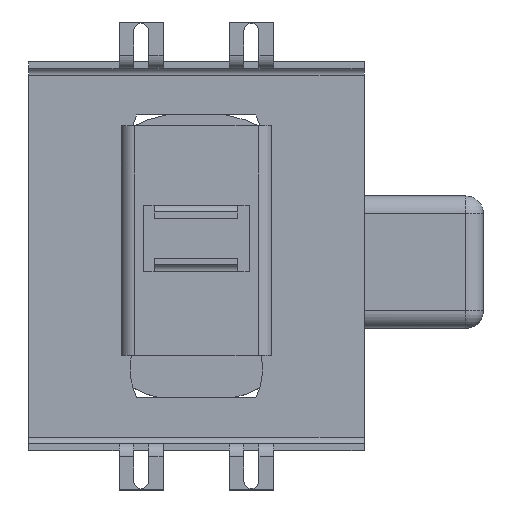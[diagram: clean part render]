
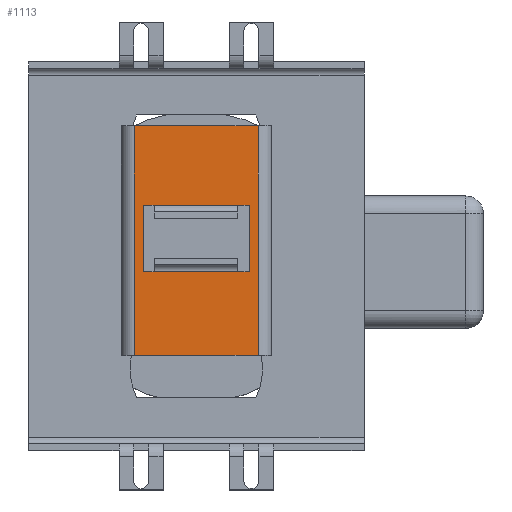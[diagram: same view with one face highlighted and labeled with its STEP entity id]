
A CAD part, top view. The second image highlights one B-rep face of the part: STEP entity #1113.
In plain terms, the highlighted planar face has unit normal (0, 0, 1).
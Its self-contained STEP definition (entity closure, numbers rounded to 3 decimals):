
#1 = LINE ( 'NONE', #502, #3295 ) ;
#94 = CARTESIAN_POINT ( 'NONE',  ( 12., -0.5, 20.5 ) ) ;
#164 = EDGE_CURVE ( 'NONE', #200, #5980, #6252, .T. ) ;
#200 = VERTEX_POINT ( 'NONE', #3700 ) ;
#207 = VERTEX_POINT ( 'NONE', #5115 ) ;
#281 = CARTESIAN_POINT ( 'NONE',  ( -9.555, 11.5, 20.5 ) ) ;
#304 = DIRECTION ( 'NONE',  ( -1., 0., 0. ) ) ;
#429 = VECTOR ( 'NONE', #4835, 1000. ) ;
#451 = ORIENTED_EDGE ( 'NONE', *, *, #1318, .T. ) ;
#474 = EDGE_CURVE ( 'NONE', #1357, #3661, #861, .T. ) ;
#502 = CARTESIAN_POINT ( 'NONE',  ( -12., 8.5, 20.5 ) ) ;
#653 = CARTESIAN_POINT ( 'NONE',  ( -14., 29.5, 20.5 ) ) ;
#698 = FACE_OUTER_BOUND ( 'NONE', #6029, .T. ) ;
#708 = DIRECTION ( 'NONE',  ( 0., 0., 1. ) ) ;
#763 = VERTEX_POINT ( 'NONE', #4251 ) ;
#839 = VERTEX_POINT ( 'NONE', #4759 ) ;
#861 = LINE ( 'NONE', #94, #1010 ) ;
#877 = DIRECTION ( 'NONE',  ( -1., 0., 0. ) ) ;
#948 = ORIENTED_EDGE ( 'NONE', *, *, #474, .F. ) ;
#1010 = VECTOR ( 'NONE', #2083, 1000. ) ;
#1090 = VECTOR ( 'NONE', #2270, 1000. ) ;
#1113 = ADVANCED_FACE ( 'NONE', ( #6237, #698 ), #1634, .T. ) ;
#1134 = VERTEX_POINT ( 'NONE', #4140 ) ;
#1161 = CARTESIAN_POINT ( 'NONE',  ( -9.555, -3.5, 20.5 ) ) ;
#1318 = EDGE_CURVE ( 'NONE', #763, #839, #1620, .T. ) ;
#1357 = VERTEX_POINT ( 'NONE', #4818 ) ;
#1366 = CARTESIAN_POINT ( 'NONE',  ( 14., 29.5, 20.5 ) ) ;
#1379 = CARTESIAN_POINT ( 'NONE',  ( -12., 11.5, 20.5 ) ) ;
#1384 = CARTESIAN_POINT ( 'NONE',  ( 12., 11.5, 20.5 ) ) ;
#1395 = VECTOR ( 'NONE', #4288, 1000. ) ;
#1529 = ORIENTED_EDGE ( 'NONE', *, *, #3925, .T. ) ;
#1620 = LINE ( 'NONE', #5765, #2181 ) ;
#1634 = PLANE ( 'NONE',  #4079 ) ;
#1674 = VECTOR ( 'NONE', #3708, 1000. ) ;
#1774 = CARTESIAN_POINT ( 'NONE',  ( 9.334, 11.5, 20.5 ) ) ;
#1874 = VERTEX_POINT ( 'NONE', #1774 ) ;
#1882 = EDGE_CURVE ( 'NONE', #207, #5896, #3860, .T. ) ;
#2079 = ORIENTED_EDGE ( 'NONE', *, *, #164, .T. ) ;
#2083 = DIRECTION ( 'NONE',  ( 0., 1., 0. ) ) ;
#2180 = EDGE_CURVE ( 'NONE', #5159, #839, #4612, .T. ) ;
#2181 = VECTOR ( 'NONE', #877, 1000. ) ;
#2270 = DIRECTION ( 'NONE',  ( 0., -1., 0. ) ) ;
#2282 = VECTOR ( 'NONE', #4594, 1000. ) ;
#2290 = VECTOR ( 'NONE', #4792, 1000. ) ;
#2294 = EDGE_CURVE ( 'NONE', #1134, #5159, #1, .T. ) ;
#2388 = ORIENTED_EDGE ( 'NONE', *, *, #2180, .F. ) ;
#2421 = VECTOR ( 'NONE', #304, 1000. ) ;
#2676 = ORIENTED_EDGE ( 'NONE', *, *, #3673, .F. ) ;
#2705 = LINE ( 'NONE', #1366, #1395 ) ;
#2932 = EDGE_LOOP ( 'NONE', ( #2388, #5823, #6268, #1529, #2676, #948, #3076, #451 ) ) ;
#3076 = ORIENTED_EDGE ( 'NONE', *, *, #3717, .F. ) ;
#3130 = CARTESIAN_POINT ( 'NONE',  ( 0., 0., 20.5 ) ) ;
#3295 = VECTOR ( 'NONE', #3982, 1000. ) ;
#3443 = ORIENTED_EDGE ( 'NONE', *, *, #5461, .T. ) ;
#3541 = CARTESIAN_POINT ( 'NONE',  ( 0., 11.5, 20.5 ) ) ;
#3545 = VECTOR ( 'NONE', #6240, 1000. ) ;
#3661 = VERTEX_POINT ( 'NONE', #1384 ) ;
#3673 = EDGE_CURVE ( 'NONE', #3661, #1874, #6120, .T. ) ;
#3678 = CARTESIAN_POINT ( 'NONE',  ( 17., 29.5, 20.5 ) ) ;
#3700 = CARTESIAN_POINT ( 'NONE',  ( 14., 29.5, 20.5 ) ) ;
#3708 = DIRECTION ( 'NONE',  ( 1., 0., 0. ) ) ;
#3717 = EDGE_CURVE ( 'NONE', #763, #1357, #5794, .T. ) ;
#3860 = LINE ( 'NONE', #5734, #3545 ) ;
#3865 = CARTESIAN_POINT ( 'NONE',  ( -12., -3.5, 20.5 ) ) ;
#3925 = EDGE_CURVE ( 'NONE', #4046, #1874, #6028, .T. ) ;
#3953 = LINE ( 'NONE', #1379, #5318 ) ;
#3982 = DIRECTION ( 'NONE',  ( 0., -1., 0. ) ) ;
#4046 = VERTEX_POINT ( 'NONE', #281 ) ;
#4079 = AXIS2_PLACEMENT_3D ( 'NONE', #3130, #708, #5528 ) ;
#4105 = CARTESIAN_POINT ( 'NONE',  ( 14., -22.5, 20.5 ) ) ;
#4140 = CARTESIAN_POINT ( 'NONE',  ( -12., 11.5, 20.5 ) ) ;
#4251 = CARTESIAN_POINT ( 'NONE',  ( 9.334, -3.5, 20.5 ) ) ;
#4270 = ORIENTED_EDGE ( 'NONE', *, *, #5627, .T. ) ;
#4288 = DIRECTION ( 'NONE',  ( 0., 1., 0. ) ) ;
#4300 = ORIENTED_EDGE ( 'NONE', *, *, #1882, .T. ) ;
#4385 = CARTESIAN_POINT ( 'NONE',  ( 12., -3.5, 20.5 ) ) ;
#4594 = DIRECTION ( 'NONE',  ( 1., 0., 0. ) ) ;
#4612 = LINE ( 'NONE', #1161, #1674 ) ;
#4759 = CARTESIAN_POINT ( 'NONE',  ( -9.555, -3.5, 20.5 ) ) ;
#4792 = DIRECTION ( 'NONE',  ( -1., 0., 0. ) ) ;
#4818 = CARTESIAN_POINT ( 'NONE',  ( 12., -3.5, 20.5 ) ) ;
#4835 = DIRECTION ( 'NONE',  ( 1., 0., 0. ) ) ;
#5115 = CARTESIAN_POINT ( 'NONE',  ( -14., -22.5, 20.5 ) ) ;
#5159 = VERTEX_POINT ( 'NONE', #3865 ) ;
#5205 = CARTESIAN_POINT ( 'NONE',  ( -14., -22.5, 20.5 ) ) ;
#5315 = DIRECTION ( 'NONE',  ( -1., 0., 0. ) ) ;
#5318 = VECTOR ( 'NONE', #5315, 1000. ) ;
#5338 = CARTESIAN_POINT ( 'NONE',  ( 9.334, 11.5, 20.5 ) ) ;
#5461 = EDGE_CURVE ( 'NONE', #5980, #207, #6241, .T. ) ;
#5528 = DIRECTION ( 'NONE',  ( 1., 0., 0. ) ) ;
#5627 = EDGE_CURVE ( 'NONE', #5896, #200, #2705, .T. ) ;
#5734 = CARTESIAN_POINT ( 'NONE',  ( -17., -22.5, 20.5 ) ) ;
#5765 = CARTESIAN_POINT ( 'NONE',  ( 0., -3.5, 20.5 ) ) ;
#5794 = LINE ( 'NONE', #4385, #429 ) ;
#5823 = ORIENTED_EDGE ( 'NONE', *, *, #2294, .F. ) ;
#5896 = VERTEX_POINT ( 'NONE', #4105 ) ;
#5980 = VERTEX_POINT ( 'NONE', #653 ) ;
#6028 = LINE ( 'NONE', #3541, #2282 ) ;
#6029 = EDGE_LOOP ( 'NONE', ( #2079, #3443, #4300, #4270 ) ) ;
#6120 = LINE ( 'NONE', #5338, #2290 ) ;
#6237 = FACE_BOUND ( 'NONE', #2932, .T. ) ;
#6240 = DIRECTION ( 'NONE',  ( 1., 0., 0. ) ) ;
#6241 = LINE ( 'NONE', #5205, #1090 ) ;
#6252 = LINE ( 'NONE', #3678, #2421 ) ;
#6268 = ORIENTED_EDGE ( 'NONE', *, *, #6290, .F. ) ;
#6290 = EDGE_CURVE ( 'NONE', #4046, #1134, #3953, .T. ) ;
